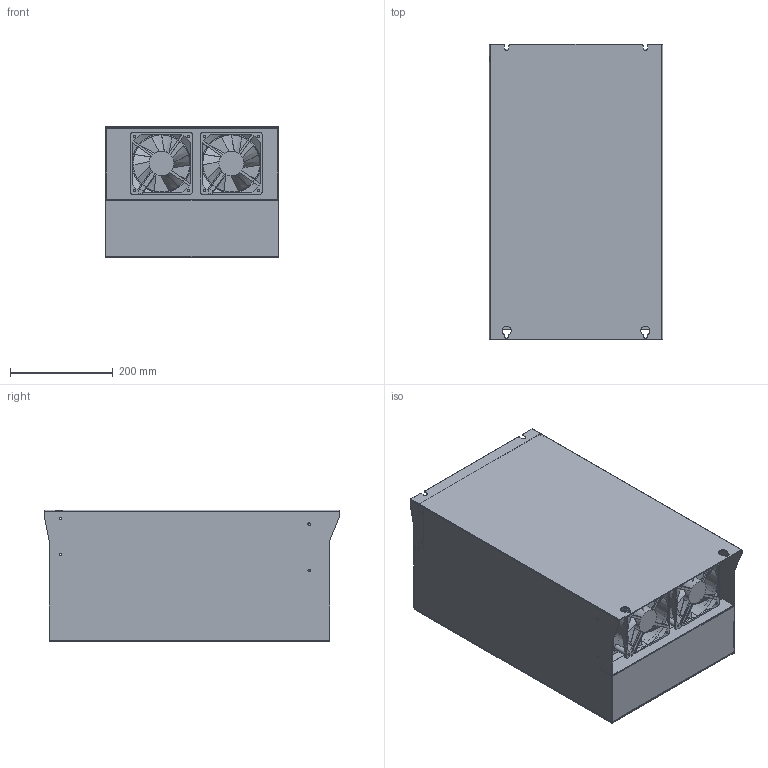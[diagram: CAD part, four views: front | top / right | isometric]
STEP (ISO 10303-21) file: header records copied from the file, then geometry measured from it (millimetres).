
FILE_DESCRIPTION((''),'2;1');
FILE_NAME('A28_ASM','2016-05-10T',('Administrator'),(''),'PRO/ENGINEER BY PARAMETRIC TECHNOLOGY CORPORATION, 2011310','PRO/ENGINEER BY PARAMETRIC TECHNOLOGY CORPORATION, 2011310','');
FILE_SCHEMA(('CONFIG_CONTROL_DESIGN'));
Length unit declared in the file: millimetre
Products named in the file (16): A28JX02; A28JX04; A28JX06; A28JX01_ASM; A28JX03; A28JX08; A28JX09; A28JX11; A28JX15_ASM; A28JX12; A28JX16_ASM; A28ZP02_ASM; A28ZP01_ASM; TB-JNA360; 12038; A28_ASM
Assembly tree (25 placements, depth 5):
  A28_ASM
    A28ZP01_ASM
      A28ZP02_ASM
        A28JX01_ASM
          A28JX02
          A28JX04
          A28JX06
        A28JX03
        A28JX08
        A28JX09
        A28JX15_ASM
          A28JX11
        A28JX16_ASM
          A28JX12
    TB-JNA360  x10
    12038  x2
Bounding box: 338 x 576 x 256.5 mm (x, y, z)
Volume: 2029696.4 mm3; surface area: 2109461.7 mm2
Topology: 30 solids, 42 shells, 1494 faces, 4080 edges, 2654 vertices
Faces by surface type: plane 858, cylinder 570, bspline 42, cone 16, torus 8
Entity records: 28104 total; most frequent: CARTESIAN_POINT 5747, DIRECTION 4676, ORIENTED_EDGE 4494, EDGE_CURVE 2267, AXIS2_PLACEMENT_3D 1623, VERTEX_POINT 1450, VECTOR 1430, LINE 1430
